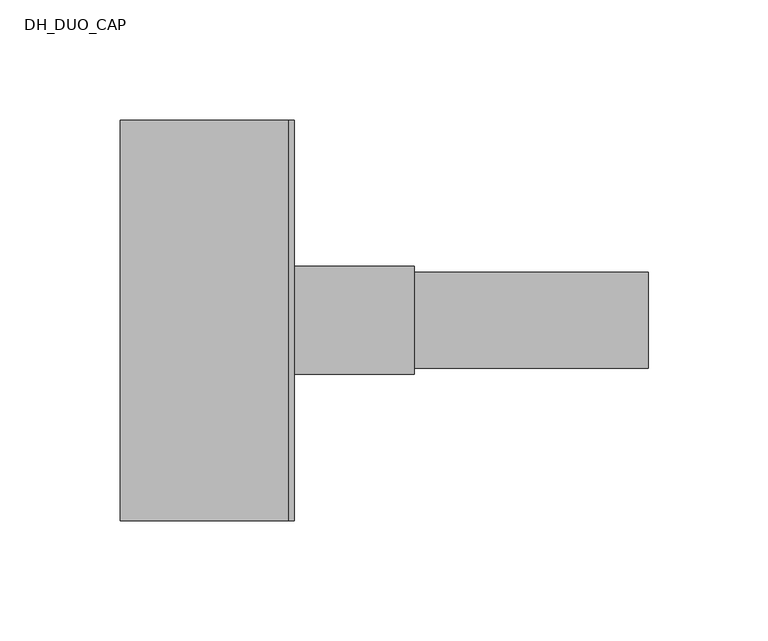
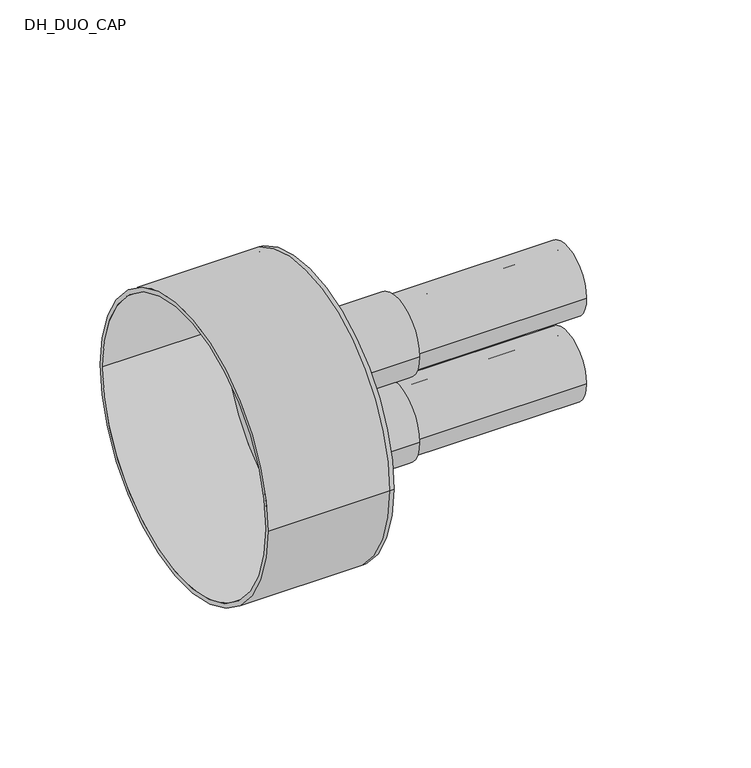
"""IFC4 building model written with IfcOpenShell, lengths in millimetres: pipe fitting geometry, DH_DUO_CAP : RAUTHERMEX DUO ++ 7.4 Heating - Schrink Cap."""

from ifc_helpers import new_model, si_unit, point, frame, frame_2d, origin, place, context, project, spatial, polyline, circle_curve, trimmed, segment, composite_curve, outline, extrude, source, transform, mapped, element, save
from ifc_brep_helpers import plane_surface, cylinder_surface, revolved_surface, advanced_brep


def dh_duo_cap_196220e5(model_context):
    return source(origin(), model_context, "Body", "SolidModel", [
        extrude(outline(composite_curve([segment(trimmed(circle_curve(frame_2d((0.0, -26.0)), 20.0), [point((-20.0, -26.0))], [point((20.0, -26.0))], False, "CARTESIAN"), True, "CONTINUOUS"), segment(trimmed(circle_curve(frame_2d((0.0, -26.0)), 20.0), [point((20.0, -26.0))], [point((-20.0, -26.0))], False, "CARTESIAN"), True, "CONTINUOUS")], self_intersect=False), holes=[composite_curve([segment(trimmed(circle_curve(frame_2d((0.0, -26.0)), 14.5), [point((-14.5, -26.0))], [point((14.5, -26.0))], True, "CARTESIAN"), True, "CONTINUOUS"), segment(trimmed(circle_curve(frame_2d((0.0, -26.0)), 14.5), [point((14.5, -26.0))], [point((-14.5, -26.0))], True, "CARTESIAN"), True, "CONTINUOUS")], self_intersect=False)]), frame((0.0, 0.0, 0.0), z_axis=(1.0, 0.0, 0.0), x_axis=(0.0, 1.0, 0.0)), (0.0, 0.0, 1.0), 150.0),
        extrude(outline(composite_curve([segment(trimmed(circle_curve(frame_2d((0.0, 26.0)), 20.0), [point((-20.0, 26.0))], [point((20.0, 26.0))], False, "CARTESIAN"), True, "CONTINUOUS"), segment(trimmed(circle_curve(frame_2d((0.0, 26.0)), 20.0), [point((20.0, 26.0))], [point((-20.0, 26.0))], False, "CARTESIAN"), True, "CONTINUOUS")], self_intersect=False), holes=[composite_curve([segment(trimmed(circle_curve(frame_2d((0.0, 26.0)), 14.5), [point((-14.5, 26.0))], [point((14.5, 26.0))], True, "CARTESIAN"), True, "CONTINUOUS"), segment(trimmed(circle_curve(frame_2d((0.0, 26.0)), 14.5), [point((14.5, 26.0))], [point((-14.5, 26.0))], True, "CARTESIAN"), True, "CONTINUOUS")], self_intersect=False)]), frame((0.0, 0.0, 0.0), z_axis=(1.0, 0.0, 0.0), x_axis=(0.0, 1.0, 0.0)), (0.0, 0.0, 1.0), 150.0),
        advanced_brep(
        [(-70.0, -83.5, 0.0), (-70.0, 83.5, 0.0), (-70.0, -81.0, 0.0), (-70.0, 81.0, 0.0), (0.0, -81.0, 0.0), (0.0, 81.0, 0.0), (0.0, -83.5, 0.0), (0.0, 83.5, 0.0), (0.0, 20.0, 26.0), (0.0, -20.0, 26.0), (0.0, 20.0, -26.0), (0.0, -20.0, -26.0), (2.5, -83.5, 0.0), (2.5, 83.5, 0.0), (2.5, -20.0, 26.0), (2.5, 20.0, 26.0), (2.5, -20.0, -26.0), (2.5, 20.0, -26.0)],
        [
            (0, 1, circle_curve(frame((-70.0, 0.0, 0.0), z_axis=(-1.0, 0.0, 0.0), x_axis=(0.0, 1.0, 0.0)), 83.5)),
            (1, 0, circle_curve(frame((-70.0, 0.0, 0.0), z_axis=(-1.0, 0.0, 0.0), x_axis=(0.0, 1.0, 0.0)), 83.5)),
            (2, 3, circle_curve(frame((-70.0, 0.0, 0.0), z_axis=(1.0, 0.0, 0.0), x_axis=(0.0, 1.0, 0.0)), 81.0)),
            (3, 2, circle_curve(frame((-70.0, 0.0, 0.0), z_axis=(1.0, 0.0, 0.0), x_axis=(0.0, 1.0, 0.0)), 81.0)),
            (2, 4),
            (4, 5, circle_curve(frame((0.0, 0.0, 0.0), z_axis=(1.0, 0.0, 0.0), x_axis=(0.0, 1.0, 0.0)), 81.0)),
            (5, 3),
            (5, 4, circle_curve(frame((0.0, 0.0, 0.0), z_axis=(1.0, 0.0, 0.0), x_axis=(0.0, 1.0, 0.0)), 81.0)),
            (0, 6),
            (6, 7, circle_curve(frame((0.0, 0.0, 0.0), z_axis=(-1.0, 0.0, 0.0), x_axis=(0.0, 1.0, 0.0)), 83.5)),
            (7, 1),
            (7, 6, circle_curve(frame((0.0, 0.0, 0.0), z_axis=(-1.0, 0.0, 0.0), x_axis=(0.0, 1.0, 0.0)), 83.5)),
            (8, 9, circle_curve(frame((0.0, 0.0, 26.0), z_axis=(1.0, 0.0, 0.0), x_axis=(0.0, 1.0, 0.0)), 20.0)),
            (9, 8, circle_curve(frame((0.0, 0.0, 26.0), z_axis=(1.0, 0.0, 0.0), x_axis=(0.0, 1.0, 0.0)), 20.0)),
            (10, 11, circle_curve(frame((0.0, 0.0, -26.0), z_axis=(1.0, 0.0, 0.0), x_axis=(0.0, 1.0, 0.0)), 20.0)),
            (11, 10, circle_curve(frame((0.0, 0.0, -26.0), z_axis=(1.0, 0.0, 0.0), x_axis=(0.0, 1.0, 0.0)), 20.0)),
            (12, 13, circle_curve(frame((2.5, 0.0, 0.0), z_axis=(1.0, 0.0, 0.0), x_axis=(0.0, 1.0, 0.0)), 83.5)),
            (13, 12, circle_curve(frame((2.5, 0.0, 0.0), z_axis=(1.0, 0.0, 0.0), x_axis=(0.0, 1.0, 0.0)), 83.5)),
            (14, 15, circle_curve(frame((2.5, 0.0, 26.0), z_axis=(-1.0, 0.0, 0.0), x_axis=(0.0, 1.0, 0.0)), 20.0)),
            (15, 14, circle_curve(frame((2.5, 0.0, 26.0), z_axis=(-1.0, 0.0, 0.0), x_axis=(0.0, 1.0, 0.0)), 20.0)),
            (16, 17, circle_curve(frame((2.5, 0.0, -26.0), z_axis=(-1.0, 0.0, 0.0), x_axis=(0.0, 1.0, 0.0)), 20.0)),
            (17, 16, circle_curve(frame((2.5, 0.0, -26.0), z_axis=(-1.0, 0.0, 0.0), x_axis=(0.0, 1.0, 0.0)), 20.0)),
            (13, 7),
            (6, 12),
            (8, 15),
            (14, 9),
            (10, 17),
            (16, 11),
        ],
        [
            plane_surface(frame((-70.0, 0.0, 0.0), z_axis=(-1.0, 0.0, 0.0), x_axis=(0.0, 0.0, 1.0))),
            revolved_surface(polyline([(0.0, 81.0, 0.0), (-70.0, 81.0, 0.0)]), (-70.0, 0.0, 0.0), (1.0, 0.0, 0.0)),
            cylinder_surface(frame((-70.0, 0.0, 0.0), z_axis=(-1.0, 0.0, 0.0), x_axis=(0.0, 1.0, 0.0)), 83.5),
            plane_surface(frame((0.0, 0.0, 0.0), z_axis=(-1.0, 0.0, 0.0), x_axis=(0.0, 0.0, 1.0))),
            plane_surface(frame((2.5, 0.0, 0.0), z_axis=(1.0, 0.0, 0.0), x_axis=(0.0, 0.0, 1.0))),
            cylinder_surface(frame((0.0, 0.0, 0.0), z_axis=(-1.0, 0.0, 0.0), x_axis=(0.0, 1.0, 0.0)), 83.5),
            revolved_surface(polyline([(0.0, 20.0, 26.0), (2.5, 20.0, 26.0)]), (0.0, 0.0, 26.0), (-1.0, 0.0, 0.0)),
            revolved_surface(polyline([(0.0, 20.0, -26.0), (2.5, 20.0, -26.0)]), (0.0, 0.0, -26.0), (-1.0, 0.0, 0.0)),
        ],
        [
            (0, [[1, 2], [3, 4]]),
            (1, [[-3, 5, 6, 7]]),
            (1, [[-4, -7, 8, -5]]),
            (2, [[-1, 9, 10, 11]]),
            (2, [[-2, -11, 12, -9]]),
            (3, [[-6, -8], [13, 14], [15, 16]]),
            (4, [[17, 18], [19, 20], [21, 22]]),
            (5, [[-18, 23, -10, 24]]),
            (5, [[-17, -24, -12, -23]]),
            (6, [[25, -19, 26, -13]]),
            (6, [[-25, -14, -26, -20]]),
            (7, [[27, -21, 28, -15]]),
            (7, [[-27, -16, -28, -22]]),
        ],
    ),
        extrude(outline(composite_curve([segment(trimmed(circle_curve(frame_2d((0.0, -26.0)), 22.5), [point((-22.5, -26.0))], [point((22.5, -26.0))], False, "CARTESIAN"), True, "CONTINUOUS"), segment(trimmed(circle_curve(frame_2d((0.0, -26.0)), 22.5), [point((22.5, -26.0))], [point((-22.5, -26.0))], False, "CARTESIAN"), True, "CONTINUOUS")], self_intersect=False), holes=[composite_curve([segment(trimmed(circle_curve(frame_2d((0.0, -26.0)), 20.0), [point((-20.0, -26.0))], [point((20.0, -26.0))], True, "CARTESIAN"), True, "CONTINUOUS"), segment(trimmed(circle_curve(frame_2d((0.0, -26.0)), 20.0), [point((20.0, -26.0))], [point((-20.0, -26.0))], True, "CARTESIAN"), True, "CONTINUOUS")], self_intersect=False)]), frame((2.5, 0.0, 0.0), z_axis=(1.0, 0.0, 0.0), x_axis=(0.0, 1.0, 0.0)), (0.0, 0.0, 1.0), 50.0),
        extrude(outline(composite_curve([segment(trimmed(circle_curve(frame_2d((0.0, 26.0)), 22.5), [point((-22.5, 26.0))], [point((22.5, 26.0))], False, "CARTESIAN"), True, "CONTINUOUS"), segment(trimmed(circle_curve(frame_2d((0.0, 26.0)), 22.5), [point((22.5, 26.0))], [point((-22.5, 26.0))], False, "CARTESIAN"), True, "CONTINUOUS")], self_intersect=False), holes=[composite_curve([segment(trimmed(circle_curve(frame_2d((0.0, 26.0)), 20.0), [point((-20.0, 26.0))], [point((20.0, 26.0))], True, "CARTESIAN"), True, "CONTINUOUS"), segment(trimmed(circle_curve(frame_2d((0.0, 26.0)), 20.0), [point((20.0, 26.0))], [point((-20.0, 26.0))], True, "CARTESIAN"), True, "CONTINUOUS")], self_intersect=False)]), frame((2.5, 0.0, 0.0), z_axis=(1.0, 0.0, 0.0), x_axis=(0.0, 1.0, 0.0)), (0.0, 0.0, 1.0), 50.0),
    ])


if __name__ == "__main__":
    model = new_model("IFC4")
    model_context = context("Model", 3, world=origin())
    ifc_project = project(units=[si_unit("LENGTHUNIT", "METRE", prefix="MILLI")], contexts=[model_context])
    site = spatial("IfcSite", under=ifc_project)
    building = spatial("IfcBuilding", under=site)
    placement = place(None, origin())
    dh_duo_cap_shape = dh_duo_cap_196220e5(model_context)
    element("IfcPipeFitting", 1, ObjectType="DH_DUO_CAP : RAUTHERMEX DUO ++ 7.4 Heating - Schrink Cap", at=placement, inside=building, context=model_context, shape_type="MappedRepresentation", body=[
        mapped(dh_duo_cap_shape, transform((0.0, 0.0, 0.0), x_axis=(1.0, 0.0, 0.0), y_axis=(0.0, 1.0, 0.0), z_axis=(0.0, 0.0, 1.0))),
    ])
    save(model, "model.ifc")
